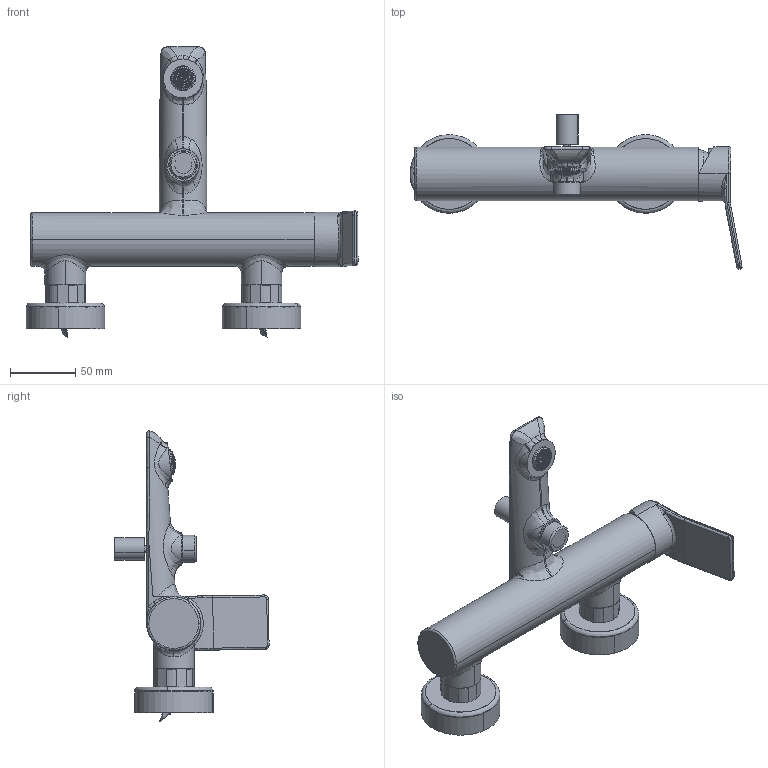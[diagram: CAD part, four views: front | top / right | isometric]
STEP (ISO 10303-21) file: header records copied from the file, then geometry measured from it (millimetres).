
FILE_DESCRIPTION (( 'STEP AP203' ), '1' );
FILE_NAME ('85122110 x architetti.STEP', '2026-06-12T14:45:11', ( '' ), ( '' ), 'SwSTEP 2.0', 'SolidWorks 2020', '' );
FILE_SCHEMA (( 'CONFIG_CONTROL_DESIGN' ));
Products named in the file (1): 85122110 x architetti
Bounding box: 253.56 x 117.71 x 221.73 mm (x, y, z)
Surface area: 116614.4 mm2 (no closed solid volume)
Topology: 0 solids, 21 shells, 2404 faces, 6616 edges, 4107 vertices
Faces by surface type: bspline 1091, plane 835, cylinder 378, cone 96, torus 4
Entity records: 129776 total; most frequent: CARTESIAN_POINT 79591, ORIENTED_EDGE 12772, DIRECTION 7529, EDGE_CURVE 6390, VERTEX_POINT 4107, AXIS2_PLACEMENT_3D 2807, EDGE_LOOP 2509, ADVANCED_FACE 2404
